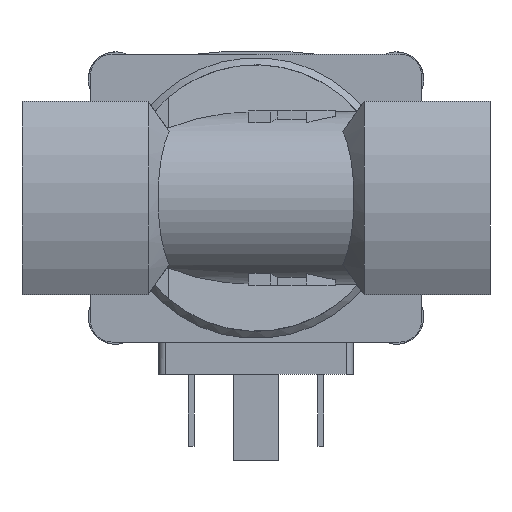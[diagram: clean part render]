
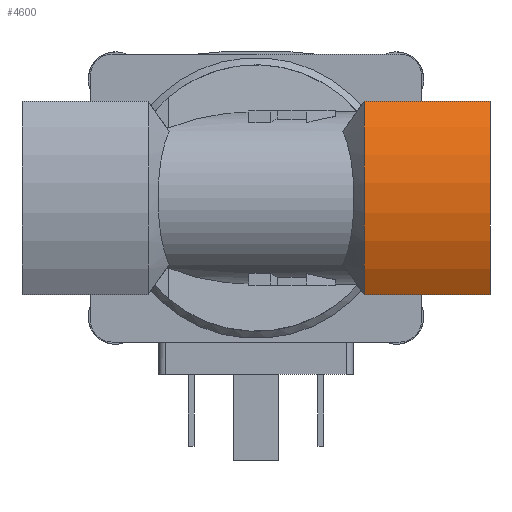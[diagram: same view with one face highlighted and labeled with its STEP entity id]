
A CAD part, front view. The second image highlights one B-rep face of the part: STEP entity #4600.
In plain terms, the highlighted cylindrical face has radius 25 mm (diameter 50 mm), a partial arc.
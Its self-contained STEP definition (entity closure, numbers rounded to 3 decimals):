
#318=CIRCLE('',#5615,25.);
#319=CIRCLE('',#5616,25.);
#743=ORIENTED_EDGE('',*,*,#1999,.T.);
#744=ORIENTED_EDGE('',*,*,#2000,.F.);
#745=ORIENTED_EDGE('',*,*,#2001,.F.);
#746=ORIENTED_EDGE('',*,*,#1997,.T.);
#1997=EDGE_CURVE('',#2632,#2631,#3064,.T.);
#1999=EDGE_CURVE('',#2631,#2633,#318,.T.);
#2000=EDGE_CURVE('',#2634,#2633,#3066,.T.);
#2001=EDGE_CURVE('',#2632,#2634,#319,.T.);
#2631=VERTEX_POINT('',#7816);
#2632=VERTEX_POINT('',#7818);
#2633=VERTEX_POINT('',#7822);
#2634=VERTEX_POINT('',#7824);
#3064=LINE('',#7817,#3466);
#3066=LINE('',#7823,#3468);
#3466=VECTOR('',#6294,1000.);
#3468=VECTOR('',#6300,1000.);
#3823=EDGE_LOOP('',(#743,#744,#745,#746));
#4175=FACE_BOUND('',#3823,.T.);
#4497=CYLINDRICAL_SURFACE('',#5614,25.);
#4600=ADVANCED_FACE('',(#4175),#4497,.T.);
#5614=AXIS2_PLACEMENT_3D('',#7820,#6296,#6297);
#5615=AXIS2_PLACEMENT_3D('',#7821,#6298,#6299);
#5616=AXIS2_PLACEMENT_3D('',#7825,#6301,#6302);
#6294=DIRECTION('',(-1.,0.,0.));
#6296=DIRECTION('',(-1.,0.,0.));
#6297=DIRECTION('',(0.,0.,1.));
#6298=DIRECTION('',(1.,0.,0.));
#6299=DIRECTION('',(0.,0.,-1.));
#6300=DIRECTION('',(-1.,0.,0.));
#6301=DIRECTION('',(1.,0.,0.));
#6302=DIRECTION('',(0.,0.,-1.));
#7816=CARTESIAN_POINT('',(15.,-10.074,13.45));
#7817=CARTESIAN_POINT('',(32.5,-10.074,13.45));
#7818=CARTESIAN_POINT('',(32.5,-10.074,13.45));
#7820=CARTESIAN_POINT('',(32.5,11.,0.));
#7821=CARTESIAN_POINT('',(15.,11.,0.));
#7822=CARTESIAN_POINT('',(15.,-10.074,-13.45));
#7823=CARTESIAN_POINT('',(32.5,-10.074,-13.45));
#7824=CARTESIAN_POINT('',(32.5,-10.074,-13.45));
#7825=CARTESIAN_POINT('',(32.5,11.,0.));
